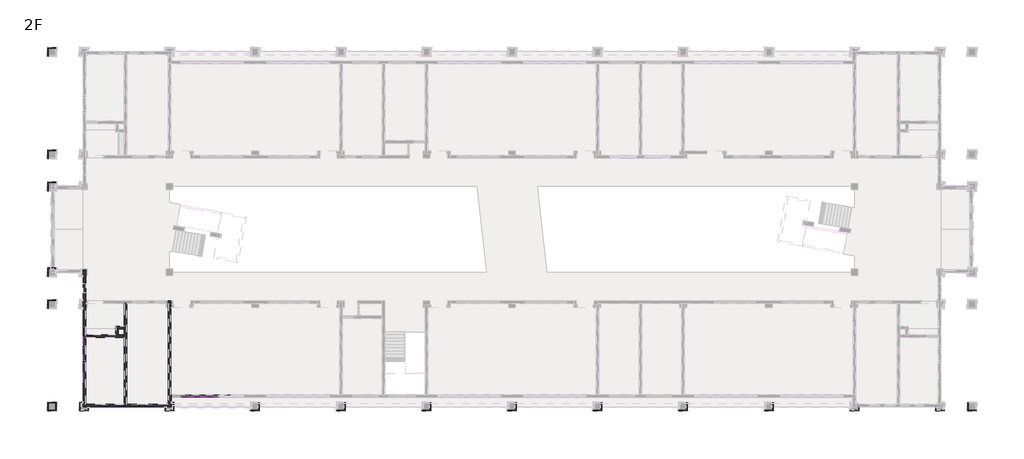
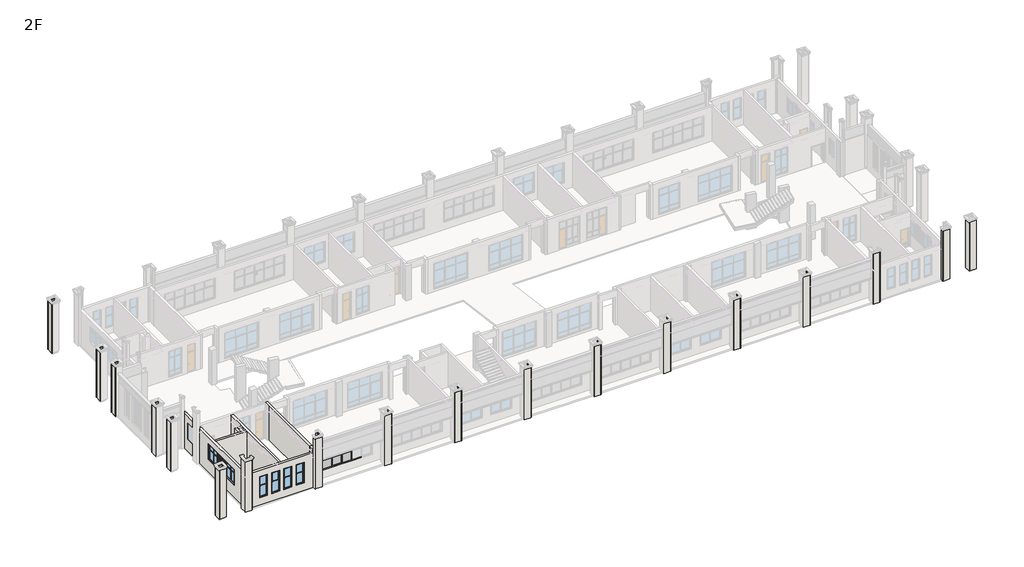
# One storey, part 1 of 16: 50 walls, 17 members, 7 windows, 5 plates, 1 door.
"""IFC4 building model written with IfcOpenShell, lengths in millimetres."""

from ifc_helpers import new_model, si_unit, frame, origin, place, context, project, spatial, polyline, outline, extrude, faceted_brep, transform, mapped, element, save
from components import m3_m3_68d9ec90, member_7564be38, member_1f4d75dd, member_0b7842ad, member_163d5e45, member_ffafc35e, member_2b011958, member_9c26cac3, member_6c42befd, member_a374fdad, plate_f4dba16c, plate_1cc4df2b, plate_4fa5932a, plate_00f9c624, plate_18a10205, window_f5fa71fb, lc1_lc1_25eb0bf8, lc7_lc7_62699857, lc7a_lc7a_525a1188

model = new_model("IFC4")

# Units and contexts
model_context = context("Model", 3, world=origin())
ifc_project = project(units=[si_unit("LENGTHUNIT", "METRE", prefix="MILLI")], contexts=[model_context])

# Site, building, storey
site = spatial("IfcSite", under=ifc_project)
building = spatial("IfcBuilding", under=site)
storey = spatial("IfcBuildingStorey", under=building, Name="2F", Elevation=4200.0)

# Door
placement = place(None, origin())
m3_m3_shape = m3_m3_68d9ec90(model_context)
element("IfcDoor", 1, ObjectType="M3 : M3", at=placement, inside=storey, context=model_context, shape_type="MappedRepresentation", body=[
    mapped(m3_m3_shape, transform((3809.9999988, 6600.7769017, 4200.0), x_axis=(1.0, 0.0, 0.0), y_axis=(0.0, 1.0, 0.0), z_axis=(0.0, 0.0, 1.0))),
])

# Members
member_shape = member_7564be38(model_context)
element("IfcMember", 2, ObjectType="矩形竖梃 : 教学楼 – 矩形竖梃 – 100x150mm", at=placement, inside=storey, context=model_context, shape_type="MappedRepresentation", body=[
    mapped(member_shape, transform((12099.9999993, 990.0, 5100.0), x_axis=(0.0, 0.0, -1.0), y_axis=(0.0, -1.0, 0.0), z_axis=(-1.0, 0.0, 0.0))),
])
member_2_shape = member_1f4d75dd(model_context)
element("IfcMember", 3, ObjectType="矩形竖梃 : 教学楼 – 矩形竖梃 – 50x150mm", at=placement, inside=storey, context=model_context, shape_type="MappedRepresentation", body=[
    mapped(member_2_shape, transform((14449.9999993, 990.0, 5200.0), x_axis=(1.0, 0.0, 0.0), y_axis=(0.0, -1.0, 0.0), z_axis=(0.0, 0.0, -1.0))),
])
element("IfcMember", 4, ObjectType="矩形竖梃 : 教学楼 – 矩形竖梃 – 50x150mm", at=placement, inside=storey, context=model_context, shape_type="MappedRepresentation", body=[
    mapped(member_2_shape, transform((15549.9999993, 990.0, 5200.0), x_axis=(1.0, 0.0, 0.0), y_axis=(0.0, -1.0, 0.0), z_axis=(0.0, 0.0, -1.0))),
])
member_3_shape = member_0b7842ad(model_context)
element("IfcMember", 5, ObjectType="矩形竖梃 : 教学楼 – 矩形竖梃 – 50x150mm", at=placement, inside=storey, context=model_context, shape_type="MappedRepresentation", body=[
    mapped(member_3_shape, transform((13299.9999993, 990.0, 6650.0), x_axis=(0.0, 0.0, 1.0), y_axis=(0.0, -1.0, 0.0), z_axis=(1.0, 0.0, 0.0))),
])
member_4_shape = member_163d5e45(model_context)
element("IfcMember", 6, ObjectType="矩形竖梃 : 教学楼 – 矩形竖梃 – 50x150mm", at=placement, inside=storey, context=model_context, shape_type="MappedRepresentation", body=[
    mapped(member_4_shape, transform((14449.9999993, 990.0, 6650.0), x_axis=(0.0, 0.0, 1.0), y_axis=(0.0, -1.0, 0.0), z_axis=(1.0, 0.0, 0.0))),
])
element("IfcMember", 7, ObjectType="矩形竖梃 : 教学楼 – 矩形竖梃 – 50x150mm", at=placement, inside=storey, context=model_context, shape_type="MappedRepresentation", body=[
    mapped(member_3_shape, transform((15549.9999993, 990.0, 6650.0), x_axis=(0.0, 0.0, 1.0), y_axis=(0.0, -1.0, 0.0), z_axis=(1.0, 0.0, 0.0))),
])
member_5_shape = member_ffafc35e(model_context)
element("IfcMember", 8, ObjectType="矩形竖梃 : 教学楼 – 矩形竖梃 – 100x150mm", at=placement, inside=storey, context=model_context, shape_type="MappedRepresentation", body=[
    mapped(member_5_shape, transform((13299.9999993, 990.0, 5100.0), x_axis=(0.0, 0.0, -1.0), y_axis=(0.0, -1.0, 0.0), z_axis=(-1.0, 0.0, 0.0))),
])
member_6_shape = member_2b011958(model_context)
element("IfcMember", 9, ObjectType="矩形竖梃 : 教学楼 – 矩形竖梃 – 100x150mm", at=placement, inside=storey, context=model_context, shape_type="MappedRepresentation", body=[
    mapped(member_6_shape, transform((14449.9999993, 990.0, 5100.0), x_axis=(0.0, 0.0, -1.0), y_axis=(0.0, -1.0, 0.0), z_axis=(-1.0, 0.0, 0.0))),
])
element("IfcMember", 10, ObjectType="矩形竖梃 : 教学楼 – 矩形竖梃 – 100x150mm", at=placement, inside=storey, context=model_context, shape_type="MappedRepresentation", body=[
    mapped(member_5_shape, transform((15549.9999993, 990.0, 5100.0), x_axis=(0.0, 0.0, -1.0), y_axis=(0.0, -1.0, 0.0), z_axis=(-1.0, 0.0, 0.0))),
])
element("IfcMember", 11, ObjectType="矩形竖梃 : 教学楼 – 矩形竖梃 – 100x150mm", at=placement, inside=storey, context=model_context, shape_type="MappedRepresentation", body=[
    mapped(member_shape, transform((13299.9999993, 990.0, 7600.0), x_axis=(0.0, 0.0, 1.0), y_axis=(0.0, -1.0, 0.0), z_axis=(1.0, 0.0, 0.0))),
])
element("IfcMember", 12, ObjectType="矩形竖梃 : 教学楼 – 矩形竖梃 – 100x150mm", at=placement, inside=storey, context=model_context, shape_type="MappedRepresentation", body=[
    mapped(member_5_shape, transform((14449.9999993, 990.0, 7600.0), x_axis=(0.0, 0.0, 1.0), y_axis=(0.0, -1.0, 0.0), z_axis=(1.0, 0.0, 0.0))),
])
element("IfcMember", 13, ObjectType="矩形竖梃 : 教学楼 – 矩形竖梃 – 100x150mm", at=placement, inside=storey, context=model_context, shape_type="MappedRepresentation", body=[
    mapped(member_6_shape, transform((15549.9999993, 990.0, 7600.0), x_axis=(0.0, 0.0, 1.0), y_axis=(0.0, -1.0, 0.0), z_axis=(1.0, 0.0, 0.0))),
])
member_7_shape = member_9c26cac3(model_context)
element("IfcMember", 14, ObjectType="矩形竖梃 : 教学楼 – 矩形竖梃 – 50x150mm", at=placement, inside=storey, context=model_context, shape_type="MappedRepresentation", body=[
    mapped(member_7_shape, transform((13299.9999993, 990.0, 6675.0), x_axis=(1.0, 0.0, 0.0), y_axis=(0.0, -1.0, 0.0), z_axis=(0.0, 0.0, -1.0))),
])
element("IfcMember", 15, ObjectType="矩形竖梃 : 教学楼 – 矩形竖梃 – 50x150mm", at=placement, inside=storey, context=model_context, shape_type="MappedRepresentation", body=[
    mapped(member_7_shape, transform((14449.9999993, 990.0, 6675.0), x_axis=(1.0, 0.0, 0.0), y_axis=(0.0, -1.0, 0.0), z_axis=(0.0, 0.0, -1.0))),
])
element("IfcMember", 16, ObjectType="矩形竖梃 : 教学楼 – 矩形竖梃 – 50x150mm", at=placement, inside=storey, context=model_context, shape_type="MappedRepresentation", body=[
    mapped(member_7_shape, transform((15549.9999993, 990.0, 6675.0), x_axis=(1.0, 0.0, 0.0), y_axis=(0.0, -1.0, 0.0), z_axis=(0.0, 0.0, -1.0))),
])
member_8_shape = member_6c42befd(model_context)
element("IfcMember", 17, ObjectType="矩形竖梃 : 教学楼 – 矩形竖梃 – 100x150mm", at=placement, inside=storey, context=model_context, shape_type="MappedRepresentation", body=[
    mapped(member_8_shape, transform((12099.9999993, 990.0, 7500.0), x_axis=(-1.0, 0.0, 0.0), y_axis=(0.0, -1.0, 0.0), z_axis=(0.0, 0.0, 1.0))),
])
member_9_shape = member_a374fdad(model_context)
element("IfcMember", 18, ObjectType="矩形竖梃 : 教学楼 – 矩形竖梃 – 100x150mm", at=placement, inside=storey, context=model_context, shape_type="MappedRepresentation", body=[
    mapped(member_9_shape, transform((12099.9999993, 990.0, 6650.0), x_axis=(-1.0, 0.0, 0.0), y_axis=(0.0, -1.0, 0.0), z_axis=(0.0, 0.0, 1.0))),
])

# Plates
plate_shape = plate_f4dba16c(model_context)
element("IfcPlate", 19, ObjectType="系统嵌板 : 玻璃", at=placement, inside=storey, context=model_context, shape_type="MappedRepresentation", body=[
    mapped(plate_shape, transform((14999.9999993, 990.0, 5200.0), x_axis=(1.0, 0.0, 0.0), y_axis=(0.0, 1.0, 0.0), z_axis=(0.0, 0.0, 1.0))),
])
plate_2_shape = plate_1cc4df2b(model_context)
element("IfcPlate", 20, ObjectType="系统嵌板 : 玻璃", at=placement, inside=storey, context=model_context, shape_type="MappedRepresentation", body=[
    mapped(plate_2_shape, transform((12737.4999993, 990.0, 6675.0), x_axis=(1.0, 0.0, 0.0), y_axis=(0.0, 1.0, 0.0), z_axis=(0.0, 0.0, 1.0))),
])
plate_3_shape = plate_4fa5932a(model_context)
element("IfcPlate", 21, ObjectType="系统嵌板 : 玻璃", at=placement, inside=storey, context=model_context, shape_type="MappedRepresentation", body=[
    mapped(plate_3_shape, transform((13874.9999993, 990.0, 6675.0), x_axis=(1.0, 0.0, 0.0), y_axis=(0.0, 1.0, 0.0), z_axis=(0.0, 0.0, 1.0))),
])
plate_4_shape = plate_00f9c624(model_context)
element("IfcPlate", 22, ObjectType="系统嵌板 : 玻璃", at=placement, inside=storey, context=model_context, shape_type="MappedRepresentation", body=[
    mapped(plate_4_shape, transform((14999.9999993, 990.0, 6675.0), x_axis=(1.0, 0.0, 0.0), y_axis=(0.0, 1.0, 0.0), z_axis=(0.0, 0.0, 1.0))),
])
plate_5_shape = plate_18a10205(model_context)
element("IfcPlate", 23, ObjectType="教学楼 - 窗嵌板：双扇推拉窗 : 教学楼 - 窗嵌板：双扇推拉窗", at=placement, inside=storey, context=model_context, shape_type="MappedRepresentation", body=[
    mapped(plate_5_shape, transform((13312.4999993, 990.0, 5200.0), x_axis=(1.0, 0.0, 0.0), y_axis=(0.0, 1.0, 0.0), z_axis=(0.0, 0.0, 1.0))),
])

# Walls
element("IfcWall", 24, ObjectType="教学楼 – 饰面砖外墙 – 200mm", at=placement, inside=storey, context=model_context, shape_type="Brep", body=[
    faceted_brep([(2917.0000002, 12816.6954636, 4200.0), (2917.0000002, 12566.6954636, 4200.0), (2917.0000002, 12300.0, 4200.0), (2917.0000002, 9900.0, 4200.0), (2917.0000002, 9300.0, 4200.0), (2917.0000002, 300.0, 4200.0), (2917.0000002, -32.6954639, 4200.0), (2917.0000002, -32.6954639, 8400.0), (2917.0000002, 300.0, 8400.0), (2917.0000002, 9300.0, 8400.0), (2917.0000002, 9900.0, 8400.0), (2917.0000002, 12300.0, 8400.0), (2917.0000002, 12566.6954636, 8400.0), (2917.0000002, 12816.6954636, 8400.0), (2917.0000002, 5500.1677972, 5700.0), (2917.0000002, 5500.1677972, 7600.0), (2917.0000002, 4300.1677972, 7600.0), (2917.0000002, 4300.1677972, 5700.0), (2917.0000002, 2300.1678314, 5700.0), (2917.0000002, 4100.1678314, 5700.0), (2917.0000002, 4100.1678314, 7600.0), (2917.0000002, 2300.1678314, 7600.0), (2917.0000002, 5700.1678279, 5700.0), (2917.0000002, 7500.1678279, 5700.0), (2917.0000002, 7500.1678279, 7600.0), (2917.0000002, 5700.1678279, 7600.0), (2917.0000002, 10649.6954608, 5700.0), (2917.0000002, 11549.6954608, 5700.0), (2917.0000002, 11549.6954608, 7600.0), (2917.0000002, 10649.6954608, 7600.0), (3167.0000002, 12816.6954636, 4200.0), (3167.0000002, 12816.6954636, 8400.0), (3167.0000002, 12300.0, 8400.0), (3167.0000002, 9917.276907, 8400.0), (3167.0000002, 9683.276907, 8400.0), (3167.0000002, 9300.0, 8400.0), (3167.0000002, 6717.7769017, 8400.0), (3167.0000002, 6483.7769017, 8400.0), (3167.0000002, 300.0, 8400.0), (3167.0000002, 217.3045361, 8400.0), (3167.0000002, -32.6954639, 8400.0), (3167.0000002, -32.6954639, 4200.0), (3167.0000002, 217.3045361, 4200.0), (3167.0000002, 300.0, 4200.0), (3167.0000002, 6483.7769017, 4200.0), (3167.0000002, 6717.7769017, 4200.0), (3167.0000002, 9300.0, 4200.0), (3167.0000002, 9683.276907, 4200.0), (3167.0000002, 9917.276907, 4200.0), (3167.0000002, 12300.0, 4200.0), (3167.0000002, 5500.1677972, 5700.0), (3167.0000002, 4300.1677972, 5700.0), (3167.0000002, 4300.1677972, 7600.0), (3167.0000002, 5500.1677972, 7600.0), (3167.0000002, 2300.1678314, 5700.0), (3167.0000002, 2300.1678314, 7600.0), (3167.0000002, 4100.1678314, 7600.0), (3167.0000002, 4100.1678314, 5700.0), (3167.0000002, 5700.1678279, 5700.0), (3167.0000002, 5700.1678279, 7600.0), (3167.0000002, 7500.1678279, 7600.0), (3167.0000002, 7500.1678279, 5700.0), (3167.0000002, 10649.6954608, 5700.0), (3167.0000002, 10649.6954608, 7600.0), (3167.0000002, 11549.6954608, 7600.0), (3167.0000002, 11549.6954608, 5700.0)], [[[0, 1, 2, 3, 4, 5, 6, 7, 8, 9, 10, 11, 12, 13], [14, 15, 16, 17], [18, 19, 20, 21], [22, 23, 24, 25], [26, 27, 28, 29]], [[30, 31, 32, 33, 34, 35, 36, 37, 38, 39, 40, 41, 42, 43, 44, 45, 46, 47, 48, 49], [50, 51, 52, 53], [54, 55, 56, 57], [58, 59, 60, 61], [62, 63, 64, 65]], [[6, 5, 4, 3, 2, 1, 0, 30, 49, 48, 47, 46, 45, 44, 43, 42, 41]], [[13, 12, 11, 10, 9, 8, 7, 40, 39, 38, 37, 36, 35, 34, 33, 32, 31]], [[7, 6, 41, 40]], [[0, 13, 31, 30]], [[15, 14, 50, 53]], [[16, 15, 53, 52]], [[17, 16, 52, 51]], [[14, 17, 51, 50]], [[55, 54, 18, 21]], [[56, 55, 21, 20]], [[57, 56, 20, 19]], [[54, 57, 19, 18]], [[59, 58, 22, 25]], [[60, 59, 25, 24]], [[61, 60, 24, 23]], [[58, 61, 23, 22]], [[63, 62, 26, 29]], [[64, 63, 29, 28]], [[65, 64, 28, 27]], [[62, 65, 27, 26]]]),
])
element("IfcWall", 25, ObjectType="教学楼 – 饰面砖外墙 – 200mm", at=placement, inside=storey, context=model_context, shape_type="Brep", body=[
    faceted_brep([(3167.0000002, -32.6954639, 4200.0), (3300.0, -32.6954639, 4200.0), (10600.0, -32.6954639, 4200.0), (10650.0, -32.6954639, 4200.0), (10700.0, -32.6954639, 4200.0), (11133.0, -32.6954639, 4200.0), (11133.0, -32.6954639, 8400.0), (10700.0, -32.6954639, 8400.0), (3300.0, -32.6954639, 8400.0), (3167.0000002, -32.6954639, 8400.0), (9549.9999969, -32.6954639, 5100.0), (8649.9999969, -32.6954639, 5100.0), (8649.9999969, -32.6954639, 7600.0), (9549.9999969, -32.6954639, 7600.0), (8149.9999969, -32.6954639, 5100.0), (7249.9999969, -32.6954639, 5100.0), (7249.9999969, -32.6954639, 7600.0), (8149.9999969, -32.6954639, 7600.0), (6749.9999993, -32.6954639, 5100.0), (5849.9999993, -32.6954639, 5100.0), (5849.9999993, -32.6954639, 7600.0), (6749.9999993, -32.6954639, 7600.0), (5349.9999993, -32.6954639, 5100.0), (4449.9999993, -32.6954639, 5100.0), (4449.9999993, -32.6954639, 7600.0), (5349.9999993, -32.6954639, 7600.0), (3167.0000002, 217.3045361, 4200.0), (3167.0000002, 217.3045361, 8400.0), (3300.0, 217.3045361, 8400.0), (6783.0000003, 217.3045361, 8400.0), (7017.0000003, 217.3045361, 8400.0), (10700.0, 217.3045361, 8400.0), (10883.0, 217.3045361, 8400.0), (11133.0, 217.3045361, 8400.0), (11133.0, 217.3045361, 4200.0), (10883.0, 217.3045361, 4200.0), (10700.0, 217.3045361, 4200.0), (7017.0000003, 217.3045361, 4200.0), (6783.0000003, 217.3045361, 4200.0), (3300.0, 217.3045361, 4200.0), (9549.9999969, 217.3045361, 5100.0), (9549.9999969, 217.3045361, 7600.0), (8649.9999969, 217.3045361, 7600.0), (8649.9999969, 217.3045361, 5100.0), (8149.9999969, 217.3045361, 5100.0), (8149.9999969, 217.3045361, 7600.0), (7249.9999969, 217.3045361, 7600.0), (7249.9999969, 217.3045361, 5100.0), (6749.9999993, 217.3045361, 5100.0), (6749.9999993, 217.3045361, 7600.0), (5849.9999993, 217.3045361, 7600.0), (5849.9999993, 217.3045361, 5100.0), (5349.9999993, 217.3045361, 5100.0), (5349.9999993, 217.3045361, 7600.0), (4449.9999993, 217.3045361, 7600.0), (4449.9999993, 217.3045361, 5100.0)], [[[0, 1, 2, 3, 4, 5, 6, 7, 8, 9], [10, 11, 12, 13], [14, 15, 16, 17], [18, 19, 20, 21], [22, 23, 24, 25]], [[26, 27, 28, 29, 30, 31, 32, 33, 34, 35, 36, 37, 38, 39], [40, 41, 42, 43], [44, 45, 46, 47], [48, 49, 50, 51], [52, 53, 54, 55]], [[5, 4, 3, 2, 1, 0, 26, 39, 38, 37, 36, 35, 34]], [[9, 8, 7, 6, 33, 32, 31, 30, 29, 28, 27]], [[0, 9, 27, 26]], [[6, 5, 34, 33]], [[41, 40, 10, 13]], [[42, 41, 13, 12]], [[43, 42, 12, 11]], [[40, 43, 11, 10]], [[45, 44, 14, 17]], [[46, 45, 17, 16]], [[47, 46, 16, 15]], [[44, 47, 15, 14]], [[49, 48, 18, 21]], [[50, 49, 21, 20]], [[51, 50, 20, 19]], [[48, 51, 19, 18]], [[53, 52, 22, 25]], [[54, 53, 25, 24]], [[55, 54, 24, 23]], [[52, 55, 23, 22]]]),
])
element("IfcWall", 26, ObjectType="教学楼 – 饰面砖外墙 – 200mm", at=placement, inside=storey, context=model_context, shape_type="Brep", body=[
    faceted_brep([(11133.0, 217.3045361, 4200.0), (11133.0, 300.0, 4200.0), (11133.0, 350.0, 4200.0), (11133.0, 400.0, 4200.0), (11133.0, 875.0, 4200.0), (11133.0, 1125.0, 4200.0), (11133.0, 1125.0, 8400.0), (11133.0, 875.0, 8400.0), (11133.0, 300.0, 8400.0), (11133.0, 217.3045361, 8400.0), (10883.0, 217.3045361, 4200.0), (10883.0, 217.3045361, 8400.0), (10883.0, 300.0, 8400.0), (10883.0, 1125.0, 8400.0), (10883.0, 1125.0, 4200.0), (10883.0, 300.0, 4200.0), (11117.0, 1125.0, 4200.0), (11117.0, 1125.0, 8400.0)], [[[0, 1, 2, 3, 4, 5, 6, 7, 8, 9]], [[10, 11, 12, 13, 14, 15]], [[5, 4, 3, 2, 1, 0, 10, 15, 14, 16]], [[9, 8, 7, 6, 17, 13, 12, 11]], [[0, 9, 11, 10]], [[6, 5, 16, 14, 13, 17]]]),
])
element("IfcWall", 27, ObjectType="教学楼 – 涂料内墙 – 200mm", at=placement, inside=storey, context=model_context, shape_type="Brep", body=[
    faceted_brep([(11117.0, 1125.0, 4200.0), (11117.0, 9283.0, 4200.0), (11117.0, 9283.2768988, 4200.0), (11117.0, 9517.2768988, 4200.0), (11117.0, 9917.0, 4200.0), (11117.0, 9917.276907, 4200.0), (11117.0, 9917.276907, 8400.0), (11117.0, 9917.0, 8400.0), (11117.0, 9517.2768988, 8400.0), (11117.0, 9283.2768988, 8400.0), (11117.0, 9283.0, 8400.0), (11117.0, 1125.0, 8400.0), (10883.0, 1125.0, 4200.0), (10883.0, 1125.0, 8400.0), (10883.0, 9283.0, 8400.0), (10883.0, 9683.276907, 8400.0), (10883.0, 9917.276907, 8400.0), (10883.0, 9917.276907, 4200.0), (10883.0, 9683.276907, 4200.0), (10883.0, 9283.0, 4200.0)], [[[0, 1, 2, 3, 4, 5, 6, 7, 8, 9, 10, 11]], [[12, 13, 14, 15, 16, 17, 18, 19]], [[5, 4, 3, 2, 1, 0, 12, 19, 18, 17]], [[11, 10, 9, 8, 7, 6, 16, 15, 14, 13]], [[6, 5, 17, 16]], [[0, 11, 13, 12]]]),
])
element("IfcWall", 28, ObjectType="教学楼 – 涂料内墙 – 200mm", at=placement, inside=storey, context=model_context, shape_type="Brep", body=[
    faceted_brep([(7017.0000003, 217.3045361, 4200.0), (7017.0000003, 9683.276907, 4200.0), (7017.0000003, 9683.276907, 8400.0), (7017.0000003, 217.3045361, 8400.0), (6783.0000003, 217.3045361, 4200.0), (6783.0000003, 217.3045361, 8400.0), (6783.0000003, 6483.7769017, 8400.0), (6783.0000003, 6717.7769017, 8400.0), (6783.0000003, 7283.7768988, 8400.0), (6783.0000003, 7517.7768988, 8400.0), (6783.0000003, 9683.276907, 8400.0), (6783.0000003, 9683.276907, 4200.0), (6783.0000003, 7517.7768988, 4200.0), (6783.0000003, 7283.7768988, 4200.0), (6783.0000003, 6717.7769017, 4200.0), (6783.0000003, 6483.7769017, 4200.0)], [[[0, 1, 2, 3]], [[4, 5, 6, 7, 8, 9, 10, 11, 12, 13, 14, 15]], [[1, 0, 4, 15, 14, 13, 12, 11]], [[3, 2, 10, 9, 8, 7, 6, 5]], [[2, 1, 11, 10]], [[0, 3, 5, 4]]]),
])
element("IfcWall", 29, ObjectType="教学楼 – 涂料内墙 – 200mm", at=placement, inside=storey, context=model_context, shape_type="Brep", body=[
    faceted_brep([(3167.0000002, 6717.7769017, 8400.0), (5983.0000019, 6717.7769017, 8400.0), (6217.0000019, 6717.7769017, 8400.0), (6783.0000003, 6717.7769017, 8400.0), (6783.0000003, 6717.7769017, 4200.0), (6217.0000019, 6717.7769017, 4200.0), (5983.0000019, 6717.7769017, 4200.0), (4309.9999988, 6717.7769017, 4200.0), (4309.9999988, 6717.7769017, 6500.0), (3309.9999988, 6717.7769017, 6500.0), (3309.9999988, 6717.7769017, 4200.0), (3167.0000002, 6717.7769017, 4200.0), (6783.0000003, 6483.7769017, 8400.0), (3167.0000002, 6483.7769017, 8400.0), (3167.0000002, 6483.7769017, 4200.0), (3309.9999988, 6483.7769017, 4200.0), (3309.9999988, 6483.7769017, 6500.0), (4309.9999988, 6483.7769017, 6500.0), (4309.9999988, 6483.7769017, 4200.0), (6783.0000003, 6483.7769017, 4200.0)], [[[0, 1, 2, 3, 4, 5, 6, 7, 8, 9, 10, 11]], [[12, 13, 14, 15, 16, 17, 18, 19]], [[4, 19, 18, 7, 6, 5]], [[14, 11, 10, 15]], [[3, 2, 1, 0, 13, 12]], [[4, 3, 12, 19]], [[0, 11, 14, 13]], [[17, 8, 7, 18]], [[8, 17, 16, 9]], [[9, 16, 15, 10]]]),
])
element("IfcWall", 30, ObjectType="教学楼 – 涂料内墙 – 200mm", at=placement, inside=storey, context=model_context, shape_type="Brep", body=[
    faceted_brep([(5983.0000019, 7517.7768988, 4200.0), (5983.0000019, 6717.7769017, 4200.0), (5983.0000019, 6717.7769017, 8400.0), (5983.0000019, 7517.7768988, 8400.0), (6217.0000019, 7517.7768988, 4200.0), (6217.0000019, 7517.7768988, 8400.0), (6217.0000019, 7283.7768988, 8400.0), (6217.0000019, 6717.7769017, 8400.0), (6217.0000019, 6717.7769017, 4200.0), (6217.0000019, 7283.7768988, 4200.0)], [[[0, 1, 2, 3]], [[4, 5, 6, 7, 8, 9]], [[1, 0, 4, 9, 8]], [[3, 2, 7, 6, 5]], [[0, 3, 5, 4]], [[2, 1, 8, 7]]]),
])
element("IfcWall", 31, ObjectType="教学楼 – 涂料内墙 – 200mm", at=placement, inside=storey, context=model_context, shape_type="SweptSolid", body=[
    extrude(outline(polyline([(6217.0000019, 7517.7768988), (6783.0000003, 7517.7768988), (6783.0000003, 7283.7768988), (6217.0000019, 7283.7768988), (6217.0000019, 7517.7768988)])), frame((0.0, 0.0, 4200.0), z_axis=(0.0, 0.0, 1.0), x_axis=(1.0, 0.0, 0.0)), (0.0, 0.0, 1.0), 4200.0),
])
element("IfcWall", 32, ObjectType="教学楼 - 浅驼色装饰板 - 50mm", at=placement, inside=storey, context=model_context, shape_type="Brep", body=[
    faceted_brep([(-400.0, 33550.0, 4400.0), (-350.0, 33550.0, 4400.0), (350.0, 33550.0, 4400.0), (350.0, 33550.0, 10300.0), (-350.0, 33550.0, 10300.0), (-400.0, 33550.0, 10300.0), (-400.0, 33600.0, 4400.0), (-400.0, 33600.0, 10300.0), (350.0, 33600.0, 10300.0), (350.0, 33600.0, 4400.0)], [[[0, 1, 2, 3, 4, 5]], [[6, 7, 8, 9]], [[2, 1, 0, 6, 9]], [[5, 4, 3, 8, 7]], [[0, 5, 7, 6]], [[3, 2, 9, 8]]]),
])
element("IfcWall", 33, ObjectType="教学楼 - 浅驼色装饰板 - 50mm", at=placement, inside=storey, context=model_context, shape_type="Brep", body=[
    faceted_brep([(-350.0, 32800.0, 4400.0), (-350.0, 32850.0, 4400.0), (-350.0, 33550.0, 4400.0), (-350.0, 33550.0, 10300.0), (-350.0, 32850.0, 10300.0), (-350.0, 32800.0, 10300.0), (-400.0, 32800.0, 4400.0), (-400.0, 32800.0, 10300.0), (-400.0, 33550.0, 10300.0), (-400.0, 33550.0, 4400.0)], [[[0, 1, 2, 3, 4, 5]], [[6, 7, 8, 9]], [[2, 1, 0, 6, 9]], [[5, 4, 3, 8, 7]], [[0, 5, 7, 6]], [[3, 2, 9, 8]]]),
])
element("IfcWall", 34, ObjectType="教学楼 - 浅驼色装饰板 - 50mm", at=placement, inside=storey, context=model_context, shape_type="Brep", body=[
    faceted_brep([(-400.0, 23950.0, 4400.0), (-350.0, 23950.0, 4400.0), (350.0, 23950.0, 4400.0), (350.0, 23950.0, 10300.0), (-350.0, 23950.0, 10300.0), (-400.0, 23950.0, 10300.0), (-400.0, 24000.0, 4400.0), (-400.0, 24000.0, 10300.0), (350.0, 24000.0, 10300.0), (350.0, 24000.0, 4400.0)], [[[0, 1, 2, 3, 4, 5]], [[6, 7, 8, 9]], [[2, 1, 0, 6, 9]], [[5, 4, 3, 8, 7]], [[0, 5, 7, 6]], [[3, 2, 9, 8]]]),
])
element("IfcWall", 35, ObjectType="教学楼 - 浅驼色装饰板 - 50mm", at=placement, inside=storey, context=model_context, shape_type="Brep", body=[
    faceted_brep([(-350.0, 23200.0, 4400.0), (-350.0, 23250.0, 4400.0), (-350.0, 23950.0, 4400.0), (-350.0, 23950.0, 10300.0), (-350.0, 23250.0, 10300.0), (-350.0, 23200.0, 10300.0), (-400.0, 23200.0, 4400.0), (-400.0, 23200.0, 10300.0), (-400.0, 23950.0, 10300.0), (-400.0, 23950.0, 4400.0)], [[[0, 1, 2, 3, 4, 5]], [[6, 7, 8, 9]], [[2, 1, 0, 6, 9]], [[5, 4, 3, 8, 7]], [[0, 5, 7, 6]], [[3, 2, 9, 8]]]),
])
element("IfcWall", 36, ObjectType="教学楼 - 浅驼色装饰板 - 50mm", at=placement, inside=storey, context=model_context, shape_type="Brep", body=[
    faceted_brep([(-400.0, 9950.0, 4400.0), (-350.0, 9950.0, 4400.0), (350.0, 9950.0, 4400.0), (350.0, 9950.0, 10300.0), (-350.0, 9950.0, 10300.0), (-400.0, 9950.0, 10300.0), (-400.0, 10000.0, 4400.0), (-400.0, 10000.0, 10300.0), (350.0, 10000.0, 10300.0), (350.0, 10000.0, 4400.0)], [[[0, 1, 2, 3, 4, 5]], [[6, 7, 8, 9]], [[2, 1, 0, 6, 9]], [[5, 4, 3, 8, 7]], [[0, 5, 7, 6]], [[3, 2, 9, 8]]]),
])
element("IfcWall", 37, ObjectType="教学楼 - 浅驼色装饰板 - 50mm", at=placement, inside=storey, context=model_context, shape_type="Brep", body=[
    faceted_brep([(-350.0, 9200.0, 4400.0), (-350.0, 9250.0, 4400.0), (-350.0, 9950.0, 4400.0), (-350.0, 9950.0, 10300.0), (-350.0, 9250.0, 10300.0), (-350.0, 9200.0, 10300.0), (-400.0, 9200.0, 4400.0), (-400.0, 9200.0, 10300.0), (-400.0, 9950.0, 10300.0), (-400.0, 9950.0, 4400.0)], [[[0, 1, 2, 3, 4, 5]], [[6, 7, 8, 9]], [[2, 1, 0, 6, 9]], [[5, 4, 3, 8, 7]], [[0, 5, 7, 6]], [[3, 2, 9, 8]]]),
])
element("IfcWall", 38, ObjectType="教学楼 - 浅驼色装饰板 - 50mm", at=placement, inside=storey, context=model_context, shape_type="Brep", body=[
    faceted_brep([(-400.0, 350.0, 4400.0), (-350.0, 350.0, 4400.0), (350.0, 350.0, 4400.0), (350.0, 350.0, 10300.0), (-350.0, 350.0, 10300.0), (-400.0, 350.0, 10300.0), (-400.0, 400.0, 4400.0), (-400.0, 400.0, 10300.0), (350.0, 400.0, 10300.0), (350.0, 400.0, 4400.0)], [[[0, 1, 2, 3, 4, 5]], [[6, 7, 8, 9]], [[2, 1, 0, 6, 9]], [[5, 4, 3, 8, 7]], [[0, 5, 7, 6]], [[3, 2, 9, 8]]]),
])
element("IfcWall", 39, ObjectType="教学楼 - 浅驼色装饰板 - 50mm", at=placement, inside=storey, context=model_context, shape_type="Brep", body=[
    faceted_brep([(-350.0, -400.0, 4400.0), (-350.0, -350.0, 4400.0), (-350.0, 350.0, 4400.0), (-350.0, 350.0, 10300.0), (-350.0, -350.0, 10300.0), (-350.0, -400.0, 10300.0), (-400.0, -400.0, 4400.0), (-400.0, -400.0, 10300.0), (-400.0, 350.0, 10300.0), (-400.0, 350.0, 4400.0)], [[[0, 1, 2, 3, 4, 5]], [[6, 7, 8, 9]], [[2, 1, 0, 6, 9]], [[5, 4, 3, 8, 7]], [[0, 5, 7, 6]], [[3, 2, 9, 8]]]),
])
element("IfcWall", 40, ObjectType="教学楼 - 浅驼色装饰板 - 50mm", at=placement, inside=storey, context=model_context, shape_type="Brep", body=[
    faceted_brep([(400.0, -350.0, 4400.0), (350.0, -350.0, 4400.0), (-350.0, -350.0, 4400.0), (-350.0, -350.0, 10300.0), (350.0, -350.0, 10300.0), (400.0, -350.0, 10300.0), (400.0, -400.0, 4400.0), (400.0, -400.0, 10300.0), (-350.0, -400.0, 10300.0), (-350.0, -400.0, 4400.0)], [[[0, 1, 2, 3, 4, 5]], [[6, 7, 8, 9]], [[2, 1, 0, 6, 9]], [[5, 4, 3, 8, 7]], [[0, 5, 7, 6]], [[3, 2, 9, 8]]]),
])
element("IfcWall", 41, ObjectType="教学楼 - 浅驼色装饰板 - 50mm", at=placement, inside=storey, context=model_context, shape_type="Brep", body=[
    faceted_brep([(350.0, 400.0, 4400.0), (350.0, 350.0, 4400.0), (350.0, -350.0, 4400.0), (350.0, -350.0, 10300.0), (350.0, 350.0, 10300.0), (350.0, 400.0, 10300.0), (400.0, 400.0, 4400.0), (400.0, 400.0, 10300.0), (400.0, -350.0, 10300.0), (400.0, -350.0, 4400.0)], [[[0, 1, 2, 3, 4, 5]], [[6, 7, 8, 9]], [[2, 1, 0, 6, 9]], [[5, 4, 3, 8, 7]], [[0, 5, 7, 6]], [[3, 2, 9, 8]]]),
])
element("IfcWall", 42, ObjectType="教学楼 - 浅驼色装饰板 - 50mm", at=placement, inside=storey, context=model_context, shape_type="Brep", body=[
    faceted_brep([(-400.0, 12950.0, 4400.0), (-350.0, 12950.0, 4400.0), (350.0, 12950.0, 4400.0), (350.0, 12950.0, 10300.0), (-350.0, 12950.0, 10300.0), (-400.0, 12950.0, 10300.0), (-400.0, 13000.0, 4400.0), (-400.0, 13000.0, 10300.0), (350.0, 13000.0, 10300.0), (350.0, 13000.0, 4400.0)], [[[0, 1, 2, 3, 4, 5]], [[6, 7, 8, 9]], [[2, 1, 0, 6, 9]], [[5, 4, 3, 8, 7]], [[0, 5, 7, 6]], [[3, 2, 9, 8]]]),
])
element("IfcWall", 43, ObjectType="教学楼 - 浅驼色装饰板 - 50mm", at=placement, inside=storey, context=model_context, shape_type="Brep", body=[
    faceted_brep([(-350.0, 12200.0, 4400.0), (-350.0, 12250.0, 4400.0), (-350.0, 12950.0, 4400.0), (-350.0, 12950.0, 10300.0), (-350.0, 12250.0, 10300.0), (-350.0, 12200.0, 10300.0), (-400.0, 12200.0, 4400.0), (-400.0, 12200.0, 10300.0), (-400.0, 12950.0, 10300.0), (-400.0, 12950.0, 4400.0)], [[[0, 1, 2, 3, 4, 5]], [[6, 7, 8, 9]], [[2, 1, 0, 6, 9]], [[5, 4, 3, 8, 7]], [[0, 5, 7, 6]], [[3, 2, 9, 8]]]),
])
element("IfcWall", 44, ObjectType="教学楼 - 浅驼色装饰板 - 50mm", at=placement, inside=storey, context=model_context, shape_type="Brep", body=[
    faceted_brep([(-400.0, 20950.0, 4400.0), (-350.0, 20950.0, 4400.0), (350.0, 20950.0, 4400.0), (350.0, 20950.0, 10300.0), (-350.0, 20950.0, 10300.0), (-400.0, 20950.0, 10300.0), (-400.0, 21000.0, 4400.0), (-400.0, 21000.0, 10300.0), (350.0, 21000.0, 10300.0), (350.0, 21000.0, 4400.0)], [[[0, 1, 2, 3, 4, 5]], [[6, 7, 8, 9]], [[2, 1, 0, 6, 9]], [[5, 4, 3, 8, 7]], [[0, 5, 7, 6]], [[3, 2, 9, 8]]]),
])
element("IfcWall", 45, ObjectType="教学楼 - 浅驼色装饰板 - 50mm", at=placement, inside=storey, context=model_context, shape_type="Brep", body=[
    faceted_brep([(-350.0, 20200.0, 4400.0), (-350.0, 20250.0, 4400.0), (-350.0, 20950.0, 4400.0), (-350.0, 20950.0, 10300.0), (-350.0, 20250.0, 10300.0), (-350.0, 20200.0, 10300.0), (-400.0, 20200.0, 4400.0), (-400.0, 20200.0, 10300.0), (-400.0, 20950.0, 10300.0), (-400.0, 20950.0, 4400.0)], [[[0, 1, 2, 3, 4, 5]], [[6, 7, 8, 9]], [[2, 1, 0, 6, 9]], [[5, 4, 3, 8, 7]], [[0, 5, 7, 6]], [[3, 2, 9, 8]]]),
])
element("IfcWall", 46, ObjectType="教学楼 - 浅驼色装饰板 - 50mm", at=placement, inside=storey, context=model_context, shape_type="Brep", body=[
    faceted_brep([(3350.0, -52.6954639, 4200.0), (3350.0, -350.0, 4200.0), (3350.0, -400.0, 4200.0), (3350.0, -400.0, 10300.0), (3350.0, -350.0, 10300.0), (3350.0, -52.6954639, 10300.0), (3400.0, -52.6954639, 4200.0), (3400.0, -52.6954639, 10300.0), (3400.0, -400.0, 10300.0), (3400.0, -400.0, 4200.0)], [[[0, 1, 2, 3, 4, 5]], [[6, 7, 8, 9]], [[2, 1, 0, 6, 9]], [[5, 4, 3, 8, 7]], [[0, 5, 7, 6]], [[3, 2, 9, 8]]]),
])
element("IfcWall", 47, ObjectType="教学楼 - 浅驼色装饰板 - 50mm", at=placement, inside=storey, context=model_context, shape_type="Brep", body=[
    faceted_brep([(3350.0, -350.0, 4200.0), (2650.0, -350.0, 4200.0), (2600.0, -350.0, 4200.0), (2600.0, -350.0, 10300.0), (2650.0, -350.0, 10300.0), (3350.0, -350.0, 10300.0), (3350.0, -400.0, 4200.0), (3350.0, -400.0, 10300.0), (2600.0, -400.0, 10300.0), (2600.0, -400.0, 4200.0)], [[[0, 1, 2, 3, 4, 5]], [[6, 7, 8, 9]], [[2, 1, 0, 6, 9]], [[5, 4, 3, 8, 7]], [[0, 5, 7, 6]], [[3, 2, 9, 8]]]),
])
element("IfcWall", 48, ObjectType="教学楼 - 浅驼色装饰板 - 50mm", at=placement, inside=storey, context=model_context, shape_type="Brep", body=[
    faceted_brep([(2650.0, -350.0, 4200.0), (2650.0, 350.0, 4200.0), (2650.0, 400.0, 4200.0), (2650.0, 400.0, 10300.0), (2650.0, 350.0, 10300.0), (2650.0, -350.0, 10300.0), (2600.0, -350.0, 4200.0), (2600.0, -350.0, 10300.0), (2600.0, 400.0, 10300.0), (2600.0, 400.0, 4200.0)], [[[0, 1, 2, 3, 4, 5]], [[6, 7, 8, 9]], [[2, 1, 0, 6, 9]], [[5, 4, 3, 8, 7]], [[0, 5, 7, 6]], [[3, 2, 9, 8]]]),
])
element("IfcWall", 49, ObjectType="教学楼 - 浅驼色装饰板 - 50mm", at=placement, inside=storey, context=model_context, shape_type="SweptSolid", body=[
    extrude(outline(polyline([(2897.0000002, 350.0), (2650.0, 350.0), (2650.0, 400.0), (2897.0000002, 400.0), (2897.0000002, 350.0)])), frame((0.0, 0.0, 4200.0), z_axis=(0.0, 0.0, 1.0), x_axis=(1.0, 0.0, 0.0)), (0.0, 0.0, 1.0), 6100.0),
])
element("IfcWall", 50, ObjectType="教学楼 - 浅驼色装饰板 - 50mm", at=placement, inside=storey, context=model_context, shape_type="Brep", body=[
    faceted_brep([(86400.0, -350.0, 4400.0), (86350.0, -350.0, 4400.0), (85650.0, -350.0, 4400.0), (85650.0, -350.0, 10300.0), (86350.0, -350.0, 10300.0), (86400.0, -350.0, 10300.0), (86400.0, -400.0, 4400.0), (86400.0, -400.0, 10300.0), (85650.0, -400.0, 10300.0), (85650.0, -400.0, 4400.0)], [[[0, 1, 2, 3, 4, 5]], [[6, 7, 8, 9]], [[2, 1, 0, 6, 9]], [[5, 4, 3, 8, 7]], [[0, 5, 7, 6]], [[3, 2, 9, 8]]]),
])
element("IfcWall", 51, ObjectType="教学楼 - 浅驼色装饰板 - 50mm", at=placement, inside=storey, context=model_context, shape_type="Brep", body=[
    faceted_brep([(85650.0, -400.0, 4400.0), (85650.0, -350.0, 4400.0), (85650.0, 350.0, 4400.0), (85650.0, 350.0, 10300.0), (85650.0, -350.0, 10300.0), (85650.0, -400.0, 10300.0), (85600.0, -400.0, 4400.0), (85600.0, -400.0, 10300.0), (85600.0, 350.0, 10300.0), (85600.0, 350.0, 4400.0)], [[[0, 1, 2, 3, 4, 5]], [[6, 7, 8, 9]], [[2, 1, 0, 6, 9]], [[5, 4, 3, 8, 7]], [[0, 5, 7, 6]], [[3, 2, 9, 8]]]),
])
element("IfcWall", 52, ObjectType="教学楼 - 浅驼色装饰板 - 50mm", at=placement, inside=storey, context=model_context, shape_type="Brep", body=[
    faceted_brep([(82600.0, -52.6954639, 4200.0), (82600.0, -400.0, 4200.0), (82600.0, -400.0, 10300.0), (82600.0, -52.6954639, 10300.0), (82650.0, -52.6954639, 4200.0), (82650.0, -52.6954639, 10300.0), (82650.0, -350.0, 10300.0), (82650.0, -400.0, 10300.0), (82650.0, -400.0, 4200.0), (82650.0, -350.0, 4200.0)], [[[0, 1, 2, 3]], [[4, 5, 6, 7, 8, 9]], [[1, 0, 4, 9, 8]], [[3, 2, 7, 6, 5]], [[0, 3, 5, 4]], [[2, 1, 8, 7]]]),
])
element("IfcWall", 53, ObjectType="教学楼 - 浅驼色装饰板 - 50mm", at=placement, inside=storey, context=model_context, shape_type="Brep", body=[
    faceted_brep([(82650.0, -400.0, 4200.0), (83400.0, -400.0, 4200.0), (83400.0, -400.0, 10300.0), (82650.0, -400.0, 10300.0), (82650.0, -350.0, 4200.0), (82650.0, -350.0, 10300.0), (83350.0, -350.0, 10300.0), (83400.0, -350.0, 10300.0), (83400.0, -350.0, 4200.0), (83350.0, -350.0, 4200.0)], [[[0, 1, 2, 3]], [[4, 5, 6, 7, 8, 9]], [[1, 0, 4, 9, 8]], [[3, 2, 7, 6, 5]], [[0, 3, 5, 4]], [[2, 1, 8, 7]]]),
])
element("IfcWall", 54, ObjectType="教学楼 - 浅驼色装饰板 - 50mm", at=placement, inside=storey, context=model_context, shape_type="Brep", body=[
    faceted_brep([(75350.0, -32.6954642, 10300.0), (75350.0, -32.6954642, 4200.0), (75350.0, -350.6090721, 4200.0), (75350.0, -400.6090721, 4200.0), (75350.0, -400.6090721, 10300.0), (75350.0, -350.6090721, 10300.0), (75400.0, -32.6954642, 4200.0), (75400.0, -32.6954642, 10300.0), (75400.0, -400.6090721, 10300.0), (75400.0, -400.6090721, 4200.0)], [[[0, 1, 2, 3, 4, 5]], [[6, 7, 8, 9]], [[3, 2, 1, 6, 9]], [[0, 5, 4, 8, 7]], [[4, 3, 9, 8]], [[0, 7, 6, 1]]]),
])
element("IfcWall", 55, ObjectType="教学楼 - 浅驼色装饰板 - 50mm", at=placement, inside=storey, context=model_context, shape_type="Brep", body=[
    faceted_brep([(75350.0, -350.6090721, 4200.0), (74650.0, -350.6090721, 4200.0), (74600.0, -350.6090721, 4200.0), (74600.0, -350.6090721, 10300.0), (74650.0, -350.6090721, 10300.0), (75350.0, -350.6090721, 10300.0), (75350.0, -400.6090721, 4200.0), (75350.0, -400.6090721, 10300.0), (74600.0, -400.6090721, 10300.0), (74600.0, -400.6090721, 4200.0)], [[[0, 1, 2, 3, 4, 5]], [[6, 7, 8, 9]], [[2, 1, 0, 6, 9]], [[5, 4, 3, 8, 7]], [[0, 5, 7, 6]], [[3, 2, 9, 8]]]),
])
element("IfcWall", 56, ObjectType="教学楼 - 浅驼色装饰板 - 50mm", at=placement, inside=storey, context=model_context, shape_type="Brep", body=[
    faceted_brep([(10600.0, -32.6954639, 10300.0), (10600.0, -32.6954639, 4200.0), (10600.0, -400.0, 4200.0), (10600.0, -400.0, 10300.0), (10650.0, -32.6954639, 4200.0), (10650.0, -32.6954639, 10300.0), (10650.0, -350.0, 10300.0), (10650.0, -400.0, 10300.0), (10650.0, -400.0, 4200.0), (10650.0, -350.0, 4200.0)], [[[0, 1, 2, 3]], [[4, 5, 6, 7, 8, 9]], [[2, 1, 4, 9, 8]], [[0, 3, 7, 6, 5]], [[3, 2, 8, 7]], [[0, 5, 4, 1]]]),
])
element("IfcWall", 57, ObjectType="教学楼 - 浅驼色装饰板 - 50mm", at=placement, inside=storey, context=model_context, shape_type="Brep", body=[
    faceted_brep([(10650.0, -400.0, 4200.0), (11400.0, -400.0, 4200.0), (11400.0, -400.0, 10300.0), (10650.0, -400.0, 10300.0), (10650.0, -350.0, 4200.0), (10650.0, -350.0, 10300.0), (11350.0, -350.0, 10300.0), (11400.0, -350.0, 10300.0), (11400.0, -350.0, 4200.0), (11350.0, -350.0, 4200.0)], [[[0, 1, 2, 3]], [[4, 5, 6, 7, 8, 9]], [[1, 0, 4, 9, 8]], [[3, 2, 7, 6, 5]], [[0, 3, 5, 4]], [[2, 1, 8, 7]]]),
])
element("IfcWall", 58, ObjectType="教学楼 - 浅驼色装饰板 - 50mm", at=placement, inside=storey, context=model_context, shape_type="Brep", body=[
    faceted_brep([(11400.0, -350.0, 4200.0), (11400.0, 400.0, 4200.0), (11400.0, 400.0, 10300.0), (11400.0, -350.0, 10300.0), (11350.0, -350.0, 4200.0), (11350.0, -350.0, 10300.0), (11350.0, 350.0, 10300.0), (11350.0, 400.0, 10300.0), (11350.0, 400.0, 4200.0), (11350.0, 350.0, 4200.0)], [[[0, 1, 2, 3]], [[4, 5, 6, 7, 8, 9]], [[1, 0, 4, 9, 8]], [[3, 2, 7, 6, 5]], [[0, 3, 5, 4]], [[2, 1, 8, 7]]]),
])
element("IfcWall", 59, ObjectType="教学楼 - 浅驼色装饰板 - 50mm", at=placement, inside=storey, context=model_context, shape_type="SweptSolid", body=[
    extrude(outline(polyline([(11133.0, 400.0), (11350.0, 400.0), (11350.0, 350.0), (11133.0, 350.0), (11133.0, 400.0)])), frame((0.0, 0.0, 4200.0), z_axis=(0.0, 0.0, 1.0), x_axis=(1.0, 0.0, 0.0)), (0.0, 0.0, 1.0), 6100.0),
])
element("IfcWall", 60, ObjectType="教学楼 - 浅驼色装饰板 - 50mm", at=placement, inside=storey, context=model_context, shape_type="Brep", body=[
    faceted_brep([(18600.0, -400.0, 4200.0), (19350.0, -400.0, 4200.0), (19350.0, -400.0, 10300.0), (18600.0, -400.0, 10300.0), (18600.0, -350.0, 4200.0), (18600.0, -350.0, 10300.0), (18650.0, -350.0, 10300.0), (19350.0, -350.0, 10300.0), (19350.0, -350.0, 4200.0), (18650.0, -350.0, 4200.0)], [[[0, 1, 2, 3]], [[4, 5, 6, 7, 8, 9]], [[1, 0, 4, 9, 8]], [[3, 2, 7, 6, 5]], [[0, 3, 5, 4]], [[2, 1, 8, 7]]]),
])
element("IfcWall", 61, ObjectType="教学楼 - 浅驼色装饰板 - 50mm", at=placement, inside=storey, context=model_context, shape_type="Brep", body=[
    faceted_brep([(19400.0, -400.0, 4200.0), (19400.0, 350.359792, 4200.0), (19400.0, 350.359792, 10300.0), (19400.0, -400.0, 10300.0), (19350.0, -400.0, 4200.0), (19350.0, -400.0, 10300.0), (19350.0, -350.0, 10300.0), (19350.0, 350.359792, 10300.0), (19350.0, 350.359792, 4200.0), (19350.0, -350.0, 4200.0)], [[[0, 1, 2, 3]], [[4, 5, 6, 7, 8, 9]], [[1, 0, 4, 9, 8]], [[3, 2, 7, 6, 5]], [[0, 3, 5, 4]], [[2, 1, 8, 7]]]),
])
element("IfcWall", 62, ObjectType="教学楼 - 浅驼色装饰板 - 50mm", at=placement, inside=storey, context=model_context, shape_type="Brep", body=[
    faceted_brep([(26600.0, -400.0, 4200.0), (27350.0, -400.0, 4200.0), (27350.0, -400.0, 10300.0), (26600.0, -400.0, 10300.0), (26600.0, -350.0, 4200.0), (26600.0, -350.0, 10300.0), (26650.0, -350.0, 10300.0), (27350.0, -350.0, 10300.0), (27350.0, -350.0, 4200.0), (26650.0, -350.0, 4200.0)], [[[0, 1, 2, 3]], [[4, 5, 6, 7, 8, 9]], [[1, 0, 4, 9, 8]], [[3, 2, 7, 6, 5]], [[0, 3, 5, 4]], [[2, 1, 8, 7]]]),
])
element("IfcWall", 63, ObjectType="教学楼 - 浅驼色装饰板 - 50mm", at=placement, inside=storey, context=model_context, shape_type="Brep", body=[
    faceted_brep([(27400.0, -400.0, 4200.0), (27400.0, 350.359792, 4200.0), (27400.0, 350.359792, 10300.0), (27400.0, -400.0, 10300.0), (27350.0, -400.0, 4200.0), (27350.0, -400.0, 10300.0), (27350.0, -350.0, 10300.0), (27350.0, 350.359792, 10300.0), (27350.0, 350.359792, 4200.0), (27350.0, -350.0, 4200.0)], [[[0, 1, 2, 3]], [[4, 5, 6, 7, 8, 9]], [[1, 0, 4, 9, 8]], [[3, 2, 7, 6, 5]], [[0, 3, 5, 4]], [[2, 1, 8, 7]]]),
])
element("IfcWall", 64, ObjectType="教学楼 - 浅驼色装饰板 - 50mm", at=placement, inside=storey, context=model_context, shape_type="Brep", body=[
    faceted_brep([(34600.0, -400.0, 4200.0), (35350.0, -400.0, 4200.0), (35350.0, -400.0, 10300.0), (34600.0, -400.0, 10300.0), (34600.0, -350.0, 4200.0), (34600.0, -350.0, 10300.0), (34650.0, -350.0, 10300.0), (35350.0, -350.0, 10300.0), (35350.0, -350.0, 4200.0), (34650.0, -350.0, 4200.0)], [[[0, 1, 2, 3]], [[4, 5, 6, 7, 8, 9]], [[1, 0, 4, 9, 8]], [[3, 2, 7, 6, 5]], [[0, 3, 5, 4]], [[2, 1, 8, 7]]]),
])
element("IfcWall", 65, ObjectType="教学楼 - 浅驼色装饰板 - 50mm", at=placement, inside=storey, context=model_context, shape_type="Brep", body=[
    faceted_brep([(35400.0, -400.0, 4200.0), (35400.0, 350.359792, 4200.0), (35400.0, 350.359792, 10300.0), (35400.0, -400.0, 10300.0), (35350.0, -400.0, 4200.0), (35350.0, -400.0, 10300.0), (35350.0, -350.0, 10300.0), (35350.0, 350.359792, 10300.0), (35350.0, 350.359792, 4200.0), (35350.0, -350.0, 4200.0)], [[[0, 1, 2, 3]], [[4, 5, 6, 7, 8, 9]], [[1, 0, 4, 9, 8]], [[3, 2, 7, 6, 5]], [[0, 3, 5, 4]], [[2, 1, 8, 7]]]),
])
element("IfcWall", 66, ObjectType="教学楼 - 浅驼色装饰板 - 50mm", at=placement, inside=storey, context=model_context, shape_type="Brep", body=[
    faceted_brep([(42600.0, -400.0, 4200.0), (43350.0, -400.0, 4200.0), (43350.0, -400.0, 10300.0), (42600.0, -400.0, 10300.0), (42600.0, -350.0, 4200.0), (42600.0, -350.0, 10300.0), (42650.0, -350.0, 10300.0), (43350.0, -350.0, 10300.0), (43350.0, -350.0, 4200.0), (42650.0, -350.0, 4200.0)], [[[0, 1, 2, 3]], [[4, 5, 6, 7, 8, 9]], [[1, 0, 4, 9, 8]], [[3, 2, 7, 6, 5]], [[0, 3, 5, 4]], [[2, 1, 8, 7]]]),
])
element("IfcWall", 67, ObjectType="教学楼 - 浅驼色装饰板 - 50mm", at=placement, inside=storey, context=model_context, shape_type="Brep", body=[
    faceted_brep([(43400.0, -400.0, 4200.0), (43400.0, 350.359792, 4200.0), (43400.0, 350.359792, 10300.0), (43400.0, -400.0, 10300.0), (43350.0, -400.0, 4200.0), (43350.0, -400.0, 10300.0), (43350.0, -350.0, 10300.0), (43350.0, 350.359792, 10300.0), (43350.0, 350.359792, 4200.0), (43350.0, -350.0, 4200.0)], [[[0, 1, 2, 3]], [[4, 5, 6, 7, 8, 9]], [[1, 0, 4, 9, 8]], [[3, 2, 7, 6, 5]], [[0, 3, 5, 4]], [[2, 1, 8, 7]]]),
])
element("IfcWall", 68, ObjectType="教学楼 - 浅驼色装饰板 - 50mm", at=placement, inside=storey, context=model_context, shape_type="Brep", body=[
    faceted_brep([(50600.0, -400.0, 4200.0), (51350.0, -400.0, 4200.0), (51350.0, -400.0, 10300.0), (50600.0, -400.0, 10300.0), (50600.0, -350.0, 4200.0), (50600.0, -350.0, 10300.0), (50650.0, -350.0, 10300.0), (51350.0, -350.0, 10300.0), (51350.0, -350.0, 4200.0), (50650.0, -350.0, 4200.0)], [[[0, 1, 2, 3]], [[4, 5, 6, 7, 8, 9]], [[1, 0, 4, 9, 8]], [[3, 2, 7, 6, 5]], [[0, 3, 5, 4]], [[2, 1, 8, 7]]]),
])
element("IfcWall", 69, ObjectType="教学楼 - 浅驼色装饰板 - 50mm", at=placement, inside=storey, context=model_context, shape_type="Brep", body=[
    faceted_brep([(51400.0, -400.0, 4200.0), (51400.0, 350.359792, 4200.0), (51400.0, 350.359792, 10300.0), (51400.0, -400.0, 10300.0), (51350.0, -400.0, 4200.0), (51350.0, -400.0, 10300.0), (51350.0, -350.0, 10300.0), (51350.0, 350.359792, 10300.0), (51350.0, 350.359792, 4200.0), (51350.0, -350.0, 4200.0)], [[[0, 1, 2, 3]], [[4, 5, 6, 7, 8, 9]], [[1, 0, 4, 9, 8]], [[3, 2, 7, 6, 5]], [[0, 3, 5, 4]], [[2, 1, 8, 7]]]),
])
element("IfcWall", 70, ObjectType="教学楼 - 浅驼色装饰板 - 50mm", at=placement, inside=storey, context=model_context, shape_type="Brep", body=[
    faceted_brep([(58600.0, -400.0, 4200.0), (59350.0, -400.0, 4200.0), (59350.0, -400.0, 10300.0), (58600.0, -400.0, 10300.0), (58600.0, -350.0, 4200.0), (58600.0, -350.0, 10300.0), (58650.0, -350.0, 10300.0), (59350.0, -350.0, 10300.0), (59350.0, -350.0, 4200.0), (58650.0, -350.0, 4200.0)], [[[0, 1, 2, 3]], [[4, 5, 6, 7, 8, 9]], [[1, 0, 4, 9, 8]], [[3, 2, 7, 6, 5]], [[0, 3, 5, 4]], [[2, 1, 8, 7]]]),
])
element("IfcWall", 71, ObjectType="教学楼 - 浅驼色装饰板 - 50mm", at=placement, inside=storey, context=model_context, shape_type="Brep", body=[
    faceted_brep([(59400.0, -400.0, 4200.0), (59400.0, 350.359792, 4200.0), (59400.0, 350.359792, 10300.0), (59400.0, -400.0, 10300.0), (59350.0, -400.0, 4200.0), (59350.0, -400.0, 10300.0), (59350.0, -350.0, 10300.0), (59350.0, 350.359792, 10300.0), (59350.0, 350.359792, 4200.0), (59350.0, -350.0, 4200.0)], [[[0, 1, 2, 3]], [[4, 5, 6, 7, 8, 9]], [[1, 0, 4, 9, 8]], [[3, 2, 7, 6, 5]], [[0, 3, 5, 4]], [[2, 1, 8, 7]]]),
])
element("IfcWall", 72, ObjectType="教学楼 - 浅驼色装饰板 - 50mm", at=placement, inside=storey, context=model_context, shape_type="Brep", body=[
    faceted_brep([(66600.0, -400.0, 4200.0), (67350.0, -400.0, 4200.0), (67350.0, -400.0, 10300.0), (66600.0, -400.0, 10300.0), (66600.0, -350.0, 4200.0), (66600.0, -350.0, 10300.0), (66650.0, -350.0, 10300.0), (67350.0, -350.0, 10300.0), (67350.0, -350.0, 4200.0), (66650.0, -350.0, 4200.0)], [[[0, 1, 2, 3]], [[4, 5, 6, 7, 8, 9]], [[1, 0, 4, 9, 8]], [[3, 2, 7, 6, 5]], [[0, 3, 5, 4]], [[2, 1, 8, 7]]]),
])
element("IfcWall", 73, ObjectType="教学楼 - 浅驼色装饰板 - 50mm", at=placement, inside=storey, context=model_context, shape_type="Brep", body=[
    faceted_brep([(67400.0, -400.0, 4200.0), (67400.0, 350.359792, 4200.0), (67400.0, 350.359792, 10300.0), (67400.0, -400.0, 10300.0), (67350.0, -400.0, 4200.0), (67350.0, -400.0, 10300.0), (67350.0, -350.0, 10300.0), (67350.0, 350.359792, 10300.0), (67350.0, 350.359792, 4200.0), (67350.0, -350.0, 4200.0)], [[[0, 1, 2, 3]], [[4, 5, 6, 7, 8, 9]], [[1, 0, 4, 9, 8]], [[3, 2, 7, 6, 5]], [[0, 3, 5, 4]], [[2, 1, 8, 7]]]),
])

# Windows
window_shape = window_f5fa71fb(model_context)
element("IfcWindow", 74, ObjectType="LC9_带格栅 : LC9_带格栅", at=placement, inside=storey, context=model_context, shape_type="MappedRepresentation", body=[
    mapped(window_shape, transform((3033.3011339, 4900.1677972, 4200.0), x_axis=(0.0, -1.0, 0.0), y_axis=(1.0, 0.0, 0.0), z_axis=(0.0, 0.0, 1.0))),
])
lc1_lc1_shape = lc1_lc1_25eb0bf8(model_context)
element("IfcWindow", 75, ObjectType="LC1 : LC1", at=placement, inside=storey, context=model_context, shape_type="MappedRepresentation", body=[
    mapped(lc1_lc1_shape, transform((4899.9999993, 92.3045361, 4200.0), x_axis=(1.0, 0.0, 0.0), y_axis=(0.0, 1.0, 0.0), z_axis=(0.0, 0.0, 1.0))),
])
element("IfcWindow", 76, ObjectType="LC1 : LC1", at=placement, inside=storey, context=model_context, shape_type="MappedRepresentation", body=[
    mapped(lc1_lc1_shape, transform((6299.9999993, 92.3045361, 4200.0), x_axis=(1.0, 0.0, 0.0), y_axis=(0.0, 1.0, 0.0), z_axis=(0.0, 0.0, 1.0))),
])
element("IfcWindow", 77, ObjectType="LC1 : LC1", at=placement, inside=storey, context=model_context, shape_type="MappedRepresentation", body=[
    mapped(lc1_lc1_shape, transform((7699.9999969, 92.3045361, 4200.0), x_axis=(1.0, 0.0, 0.0), y_axis=(0.0, 1.0, 0.0), z_axis=(0.0, 0.0, 1.0))),
])
element("IfcWindow", 78, ObjectType="LC1 : LC1", at=placement, inside=storey, context=model_context, shape_type="MappedRepresentation", body=[
    mapped(lc1_lc1_shape, transform((9099.9999969, 92.3045361, 4200.0), x_axis=(1.0, 0.0, 0.0), y_axis=(0.0, 1.0, 0.0), z_axis=(0.0, 0.0, 1.0))),
])
lc7_lc7_shape = lc7_lc7_62699857(model_context)
element("IfcWindow", 79, ObjectType="LC7 : LC7", at=placement, inside=storey, context=model_context, shape_type="MappedRepresentation", body=[
    mapped(lc7_lc7_shape, transform((3050.6988661, 3200.1678314, 4200.0), x_axis=(0.0, 1.0, 0.0), y_axis=(-1.0, 0.0, 0.0), z_axis=(0.0, 0.0, 1.0))),
])
lc7a_lc7a_shape = lc7a_lc7a_525a1188(model_context)
element("IfcWindow", 80, ObjectType="LC7A : LC7A", at=placement, inside=storey, context=model_context, shape_type="MappedRepresentation", body=[
    mapped(lc7a_lc7a_shape, transform((3042.0951325, 6600.1678279, 4200.0), x_axis=(0.0, 1.0, 0.0), y_axis=(-1.0, 0.0, 0.0), z_axis=(0.0, 0.0, 1.0))),
])

save(model, "model.ifc")
